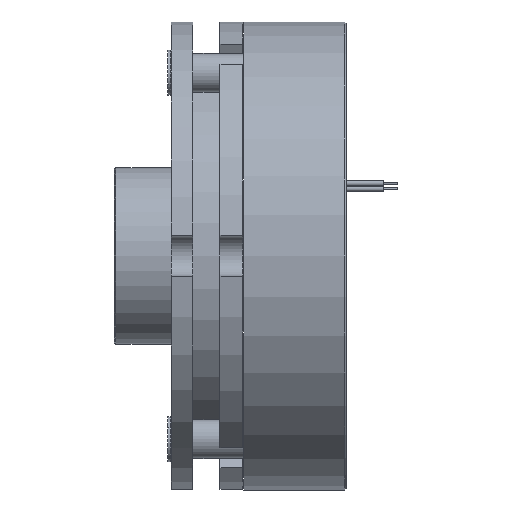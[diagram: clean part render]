
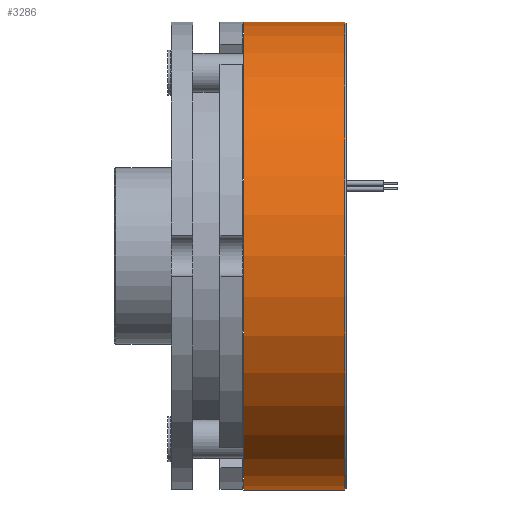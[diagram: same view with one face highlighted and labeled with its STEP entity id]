
A CAD part, front view. The second image highlights one B-rep face of the part: STEP entity #3286.
In plain terms, the highlighted cylindrical face has radius 82 mm (diameter 164 mm), a partial arc.
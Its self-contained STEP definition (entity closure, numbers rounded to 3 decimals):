
#37 = CIRCLE ( 'NONE', #3122, 82. ) ;
#108 = AXIS2_PLACEMENT_3D ( 'NONE', #358, #4198, #3555 ) ;
#140 = ORIENTED_EDGE ( 'NONE', *, *, #2218, .F. ) ;
#200 = CARTESIAN_POINT ( 'NONE',  ( 0., 0., -82. ) ) ;
#358 = CARTESIAN_POINT ( 'NONE',  ( 0., 0., 0. ) ) ;
#557 = ORIENTED_EDGE ( 'NONE', *, *, #1355, .F. ) ;
#832 = CARTESIAN_POINT ( 'NONE',  ( 35.5, 0., -82. ) ) ;
#1213 = VERTEX_POINT ( 'NONE', #4150 ) ;
#1220 = CARTESIAN_POINT ( 'NONE',  ( 35.5, 0., 82. ) ) ;
#1254 = CARTESIAN_POINT ( 'NONE',  ( 0., 0., 82. ) ) ;
#1355 = EDGE_CURVE ( 'NONE', #2524, #1213, #1898, .T. ) ;
#1361 = DIRECTION ( 'NONE',  ( -1., 0., 0. ) ) ;
#1393 = DIRECTION ( 'NONE',  ( 0., 0., 1. ) ) ;
#1414 = CARTESIAN_POINT ( 'NONE',  ( 0., 0., 0. ) ) ;
#1426 = ORIENTED_EDGE ( 'NONE', *, *, #3943, .T. ) ;
#1552 = LINE ( 'NONE', #4222, #3204 ) ;
#1784 = DIRECTION ( 'NONE',  ( -1., 0., 0. ) ) ;
#1826 = CYLINDRICAL_SURFACE ( 'NONE', #3295, 82. ) ;
#1898 = CIRCLE ( 'NONE', #108, 82. ) ;
#2000 = DIRECTION ( 'NONE',  ( -1., 0., 0. ) ) ;
#2218 = EDGE_CURVE ( 'NONE', #2831, #2524, #1552, .T. ) ;
#2342 = FACE_OUTER_BOUND ( 'NONE', #3346, .T. ) ;
#2524 = VERTEX_POINT ( 'NONE', #200 ) ;
#2827 = VERTEX_POINT ( 'NONE', #1220 ) ;
#2831 = VERTEX_POINT ( 'NONE', #832 ) ;
#3122 = AXIS2_PLACEMENT_3D ( 'NONE', #4191, #4194, #4195 ) ;
#3204 = VECTOR ( 'NONE', #1784, 1000. ) ;
#3286 = ADVANCED_FACE ( 'NONE', ( #2342 ), #1826, .T. ) ;
#3295 = AXIS2_PLACEMENT_3D ( 'NONE', #1414, #1361, #1393 ) ;
#3346 = EDGE_LOOP ( 'NONE', ( #140, #1426, #4079, #557 ) ) ;
#3387 = EDGE_CURVE ( 'NONE', #2827, #1213, #4157, .T. ) ;
#3555 = DIRECTION ( 'NONE',  ( 0., 0., 1. ) ) ;
#3943 = EDGE_CURVE ( 'NONE', #2831, #2827, #37, .T. ) ;
#3956 = VECTOR ( 'NONE', #2000, 1000. ) ;
#4079 = ORIENTED_EDGE ( 'NONE', *, *, #3387, .T. ) ;
#4150 = CARTESIAN_POINT ( 'NONE',  ( 0., 0., 82. ) ) ;
#4157 = LINE ( 'NONE', #1254, #3956 ) ;
#4191 = CARTESIAN_POINT ( 'NONE',  ( 35.5, 0., 0. ) ) ;
#4194 = DIRECTION ( 'NONE',  ( -1., 0., 0. ) ) ;
#4195 = DIRECTION ( 'NONE',  ( 0., 0., 1. ) ) ;
#4198 = DIRECTION ( 'NONE',  ( -1., 0., 0. ) ) ;
#4222 = CARTESIAN_POINT ( 'NONE',  ( 0., 0., -82. ) ) ;
